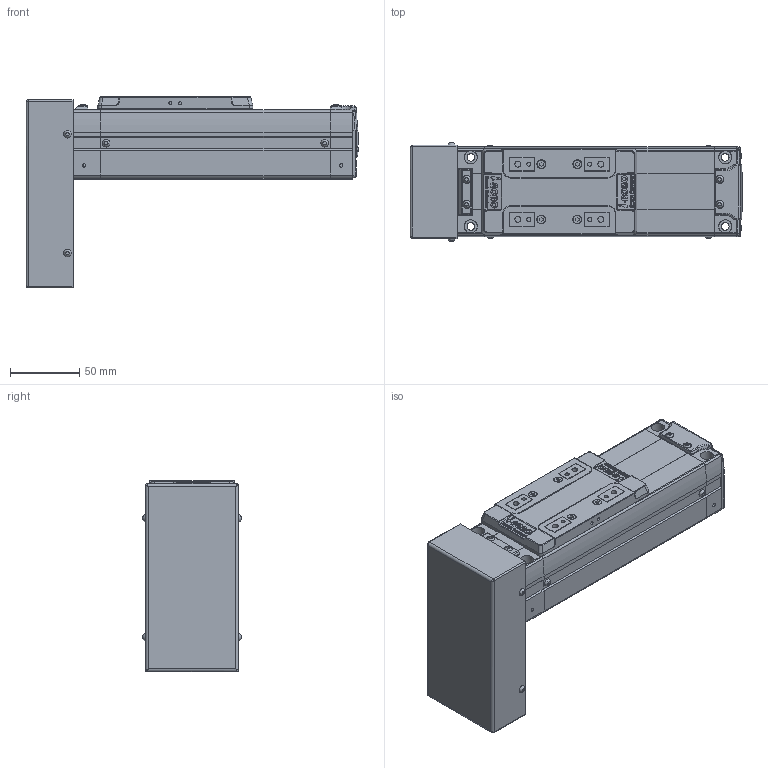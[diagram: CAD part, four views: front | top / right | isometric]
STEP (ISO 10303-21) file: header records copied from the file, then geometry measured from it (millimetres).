
FILE_DESCRIPTION(('STEP AP214'),'1');
FILE_NAME('Z:/Web/3D/SAN65/STP/SAN65ㅁㅁ-050PB.stp','2012-06-14T00:12:04',(' '),(' '),'Spatial InterOp 3D',' ',' ');
FILE_SCHEMA(('automotive_design'));
Length unit declared in the file: metre
Products named in the file (34): SAN65__-050; BODY-SAN65; REAR-SAN65; RRCV-SAN65; 스크루 : Round - M3.0 x 6.0; FRONT-SAN65; SHAFT-SAN65; RN8 x 0.75; SSFX-SAN65; SLIDE-SAN65; SLCV-SAN65; 스크루 : Countersunk - M3.0 x 6.0; ____198; PB; BTCV-SAN65; M3.0 x 6.0
Assembly tree (33 placements, depth 4):
  ____198
    SAN65__-050
      BODY-SAN65
      REAR-SAN65
        REAR-SAN65
        RRCV-SAN65
        스크루 : Round - M3.0 x 6.0
        스크루 : Round - M3.0 x 6.0
        스크루 : Round - M3.0 x 6.0
        스크루 : Round - M3.0 x 6.0
        스크루 : Round - M3.0 x 6.0
        스크루 : Round - M3.0 x 6.0
      FRONT-SAN65
        FRONT-SAN65
        SHAFT-SAN65
        RN8 x 0.75
        SSFX-SAN65
        스크루 : Round - M3.0 x 6.0
        스크루 : Round - M3.0 x 6.0
        스크루 : Round - M3.0 x 6.0
        스크루 : Round - M3.0 x 6.0
      SLIDE-SAN65
        SLIDE-SAN65
        SLCV-SAN65
        스크루 : Countersunk - M3.0 x 6.0
        스크루 : Countersunk - M3.0 x 6.0
        스크루 : Countersunk - M3.0 x 6.0
        스크루 : Countersunk - M3.0 x 6.0
    PB
      BTCV-SAN65
      M3.0 x 6.0
      M3.0 x 6.0
      M3.0 x 6.0
      M3.0 x 6.0
Bounding box: 240.15 x 71.13 x 138.5 mm (x, y, z)
Volume: 976092 mm3; surface area: 154834.5 mm2
Topology: 28 solids, 28 shells, 1436 faces, 3674 edges, 2392 vertices
Faces by surface type: plane 891, cylinder 404, cone 67, bspline 30, sphere 26, torus 15, extrusion 3
Full cylindrical faces by diameter (mm): 0.571 x2, 0.706 x1, 1.727 x2, 2.132 x1, 2.2 x4, 2.5 x9, 2.528 x4, 3 x6, 3.121 x2, 3.3 x4, 3.4 x8, 3.5 x6, 4.2 x14, 4.849 x4, 5 x3, 5.5 x4, 5.987 x2, 6 x6, 6.35 x1, 7 x1, 8 x4, 9.5 x4, 13 x1, 15 x1, 19 x1, 26 x1, 38.1 x1
Entity records: 58956 total; most frequent: CARTESIAN_POINT 12232, DIRECTION 7227, ORIENTED_EDGE 6852, EDGE_CURVE 3426, AXIS2_PLACEMENT_3D 2449, VERTEX_POINT 2338, VECTOR 2329, LINE 2326
